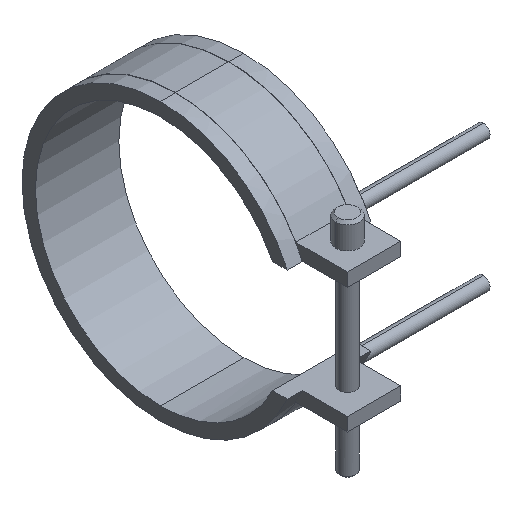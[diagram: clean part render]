
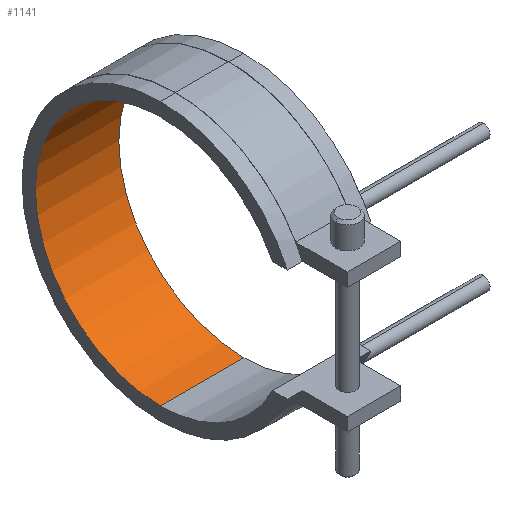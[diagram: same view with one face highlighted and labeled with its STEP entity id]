
A CAD part, isometric view. The second image highlights one B-rep face of the part: STEP entity #1141.
In plain terms, the highlighted cylindrical face has radius 37.5 mm (diameter 75 mm), a partial arc.
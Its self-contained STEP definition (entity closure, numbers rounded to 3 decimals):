
#822=CARTESIAN_POINT('Vertex',(-12.5,0.,-37.5)) ;
#829=CARTESIAN_POINT('Vertex',(12.5,0.,-37.5)) ;
#832=CARTESIAN_POINT('Line Origine',(12.5,0.,-37.5)) ;
#850=CARTESIAN_POINT('Axis2P3D Location',(-12.5,0.,0.)) ;
#854=CARTESIAN_POINT('Vertex',(-12.5,0.,37.5)) ;
#911=CARTESIAN_POINT('Vertex',(12.5,0.,37.5)) ;
#921=CARTESIAN_POINT('Line Origine',(12.5,0.,37.5)) ;
#1012=CARTESIAN_POINT('Axis2P3D Location',(12.5,0.,0.)) ;
#1130=CARTESIAN_POINT('Axis2P3D Location',(12.5,0.,0.)) ;
#833=DIRECTION('Vector Direction',(1.,0.,0.)) ;
#851=DIRECTION('Axis2P3D Direction',(1.,0.,0.)) ;
#922=DIRECTION('Vector Direction',(1.,0.,0.)) ;
#1013=DIRECTION('Axis2P3D Direction',(1.,0.,0.)) ;
#1131=DIRECTION('Axis2P3D Direction',(1.,0.,-0.)) ;
#1132=DIRECTION('Axis2P3D XDirection',(0.,0.,-1.)) ;
#852=AXIS2_PLACEMENT_3D('Circle Axis2P3D',#850,#851,$) ;
#1014=AXIS2_PLACEMENT_3D('Circle Axis2P3D',#1012,#1013,$) ;
#1133=AXIS2_PLACEMENT_3D('Cylinder Axis2P3D',#1130,#1131,#1132) ;
#1136=ORIENTED_EDGE('',*,*,#1016,.T.) ;
#1137=ORIENTED_EDGE('',*,*,#925,.T.) ;
#1138=ORIENTED_EDGE('',*,*,#856,.F.) ;
#1139=ORIENTED_EDGE('',*,*,#836,.T.) ;
#834=VECTOR('Line Direction',#833,1.) ;
#923=VECTOR('Line Direction',#922,1.) ;
#1141=ADVANCED_FACE('14075025',(#1140),#1134,.F.) ;
#853=CIRCLE('generated circle',#852,37.5) ;
#1015=CIRCLE('generated circle',#1014,37.5) ;
#1134=CYLINDRICAL_SURFACE('generated cylinder',#1133,37.5) ;
#836=EDGE_CURVE('',#823,#830,#835,.T.) ;
#856=EDGE_CURVE('',#823,#855,#853,.T.) ;
#925=EDGE_CURVE('',#912,#855,#924,.F.) ;
#1016=EDGE_CURVE('',#830,#912,#1015,.T.) ;
#1135=EDGE_LOOP('',(#1136,#1137,#1138,#1139)) ;
#1140=FACE_OUTER_BOUND('',#1135,.T.) ;
#835=LINE('Line',#832,#834) ;
#924=LINE('Line',#921,#923) ;
#823=VERTEX_POINT('',#822) ;
#830=VERTEX_POINT('',#829) ;
#855=VERTEX_POINT('',#854) ;
#912=VERTEX_POINT('',#911) ;
